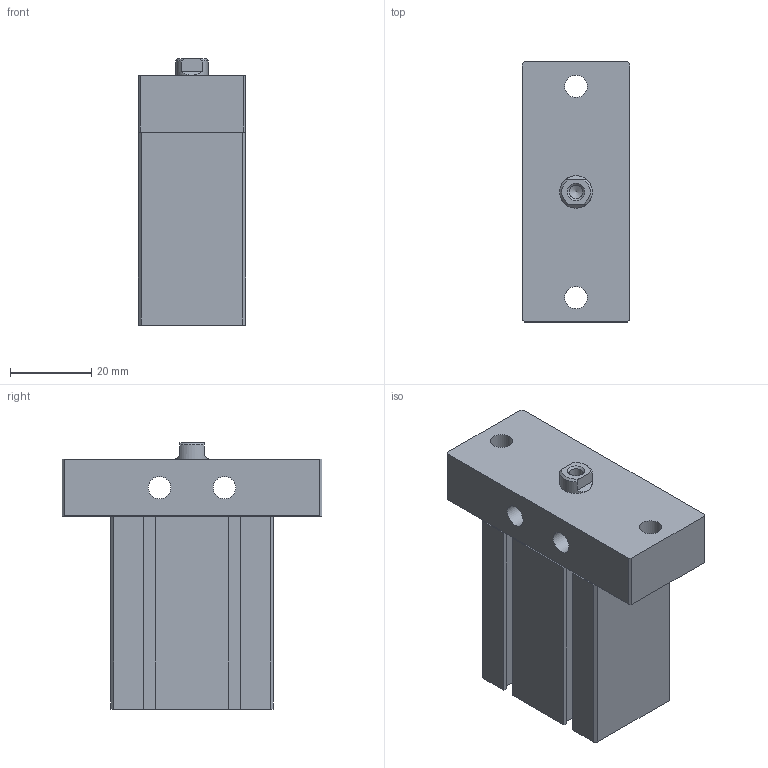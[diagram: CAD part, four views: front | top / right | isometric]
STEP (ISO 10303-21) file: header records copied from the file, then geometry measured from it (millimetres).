
FILE_DESCRIPTION((''),'2;1');
FILE_NAME('J:\3D電子目錄\氣缸\ND\ND\ND20-F\ND20x20-F.stp','2008-03-12T14:04:39',('66-2f-008'),(''),'Autodesk Inventor 11','Autodesk Inventor 11','');
FILE_SCHEMA(('AUTOMOTIVE_DESIGN { 1 0 10303 214 1 1 1 1 }'));
Length unit declared in the file: millimetre
Products named in the file (1): ND20-F
Bounding box: 26.4 x 64 x 65.5 mm (x, y, z)
Volume: 65876.8 mm3; surface area: 17200.4 mm2
Topology: 2 solids, 2 shells, 112 faces, 300 edges, 193 vertices
Faces by surface type: plane 75, bspline 16, cylinder 12, cone 8, torus 1
Full cylindrical faces by diameter (mm): 1.5 x2, 5.5 x2, 13 x1, 21 x1
Entity records: 3478 total; most frequent: CARTESIAN_POINT 793, ORIENTED_EDGE 538, DIRECTION 514, EDGE_CURVE 269, VECTOR 210, LINE 210, VERTEX_POINT 187, EDGE_LOOP 154
